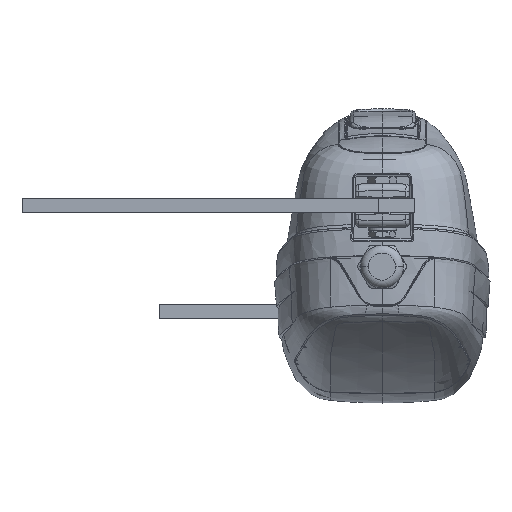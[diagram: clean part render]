
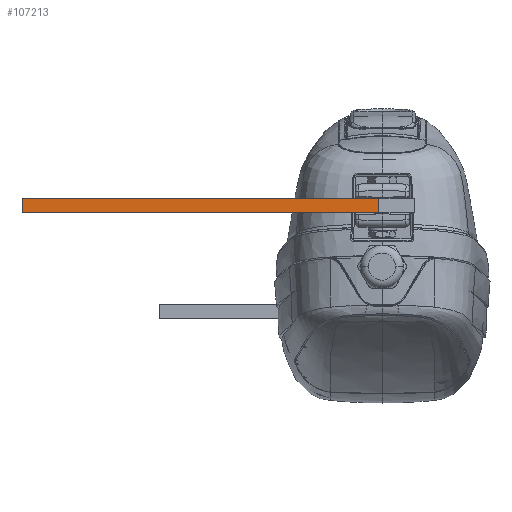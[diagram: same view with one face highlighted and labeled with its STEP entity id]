
A CAD part, left-side view. The second image highlights one B-rep face of the part: STEP entity #107213.
In plain terms, the highlighted planar face has unit normal (-1, 0, 0).
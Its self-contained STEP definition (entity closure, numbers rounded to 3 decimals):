
#4316 = DIRECTION ( 'NONE',  ( 0., 0.707, -0.707 ) ) ;
#7914 = EDGE_CURVE ( 'NONE', #33920, #128598, #138798, .T. ) ;
#26555 = ORIENTED_EDGE ( 'NONE', *, *, #130091, .T. ) ;
#33920 = VERTEX_POINT ( 'NONE', #48511 ) ;
#34172 = AXIS2_PLACEMENT_3D ( 'NONE', #148762, #77074, #4316 ) ;
#37338 = DIRECTION ( 'NONE',  ( 0., 0., -1. ) ) ;
#48511 = CARTESIAN_POINT ( 'NONE',  ( -1060.881, 201.994, 4.053 ) ) ;
#50512 = VECTOR ( 'NONE', #120601, 1000. ) ;
#52546 = ORIENTED_EDGE ( 'NONE', *, *, #7914, .F. ) ;
#53451 = DIRECTION ( 'NONE',  ( 0., -1., 0. ) ) ;
#54586 = VECTOR ( 'NONE', #37338, 1000. ) ;
#57757 = ORIENTED_EDGE ( 'NONE', *, *, #153369, .T. ) ;
#58079 = VECTOR ( 'NONE', #118010, 1000. ) ;
#60737 = ORIENTED_EDGE ( 'NONE', *, *, #106824, .F. ) ;
#61243 = CARTESIAN_POINT ( 'NONE',  ( -1060.881, 201.994, 4.053 ) ) ;
#64837 = PLANE ( 'NONE',  #34172 ) ;
#75237 = VERTEX_POINT ( 'NONE', #108903 ) ;
#77074 = DIRECTION ( 'NONE',  ( -1., 0., 0. ) ) ;
#89013 = CARTESIAN_POINT ( 'NONE',  ( -1060.881, 1.994, 4.053 ) ) ;
#94353 = EDGE_LOOP ( 'NONE', ( #26555, #60737, #52546, #57757 ) ) ;
#105792 = CARTESIAN_POINT ( 'NONE',  ( -1060.881, 1.994, 4.053 ) ) ;
#105927 = CARTESIAN_POINT ( 'NONE',  ( -1060.881, 201.994, 4.053 ) ) ;
#106824 = EDGE_CURVE ( 'NONE', #128598, #120669, #154999, .T. ) ;
#107213 = ADVANCED_FACE ( 'NONE', ( #147389 ), #64837, .T. ) ;
#108375 = CARTESIAN_POINT ( 'NONE',  ( -1060.881, 201.994, -3.947 ) ) ;
#108903 = CARTESIAN_POINT ( 'NONE',  ( -1060.881, 201.994, -3.947 ) ) ;
#112993 = CARTESIAN_POINT ( 'NONE',  ( -1060.881, 1.994, -3.947 ) ) ;
#115222 = LINE ( 'NONE', #108375, #50512 ) ;
#118010 = DIRECTION ( 'NONE',  ( 0., 0., -1. ) ) ;
#119193 = LINE ( 'NONE', #61243, #54586 ) ;
#120601 = DIRECTION ( 'NONE',  ( 0., -1., 0. ) ) ;
#120669 = VERTEX_POINT ( 'NONE', #112993 ) ;
#128598 = VERTEX_POINT ( 'NONE', #89013 ) ;
#130091 = EDGE_CURVE ( 'NONE', #75237, #120669, #115222, .T. ) ;
#138798 = LINE ( 'NONE', #105927, #142577 ) ;
#142577 = VECTOR ( 'NONE', #53451, 1000. ) ;
#147389 = FACE_OUTER_BOUND ( 'NONE', #94353, .T. ) ;
#148762 = CARTESIAN_POINT ( 'NONE',  ( -1060.881, 201.994, 4.053 ) ) ;
#153369 = EDGE_CURVE ( 'NONE', #33920, #75237, #119193, .T. ) ;
#154999 = LINE ( 'NONE', #105792, #58079 ) ;
